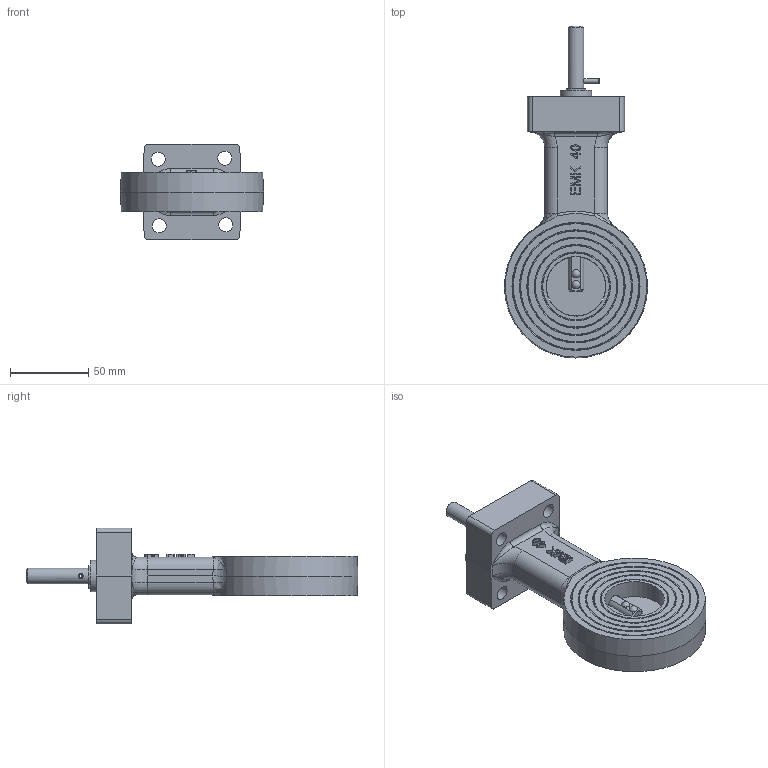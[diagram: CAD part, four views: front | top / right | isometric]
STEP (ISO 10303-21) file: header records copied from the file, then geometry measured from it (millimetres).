
FILE_DESCRIPTION((''),'2;1');
FILE_NAME('G:\CAD-Download\MRK\MRK Ro We\DN 40\MRK Ro We 15N-4.00.32.stp','2010-08-18T14:27:47',('da'),(''),'Autodesk Inventor 2008','Autodesk Inventor 2008','');
FILE_SCHEMA(('AUTOMOTIVE_DESIGN { 1 0 10303 214 1 1 1 1 }'));
Length unit declared in the file: millimetre
Products named in the file (1): Bauteil2
Bounding box: 91.28 x 211.65 x 61 mm (x, y, z)
Volume: 266724 mm3; surface area: 52174.2 mm2
Topology: 1 solids, 1 shells, 324 faces, 814 edges, 523 vertices
Faces by surface type: plane 185, bspline 69, cylinder 41, cone 21, sphere 4, torus 4
Full cylindrical faces by diameter (mm): 2 x2, 3 x2, 8 x2, 10 x2, 10.5 x1, 20 x1, 29.9 x1, 31.4 x1, 37.7 x1, 38 x1
Entity records: 11681 total; most frequent: CARTESIAN_POINT 4246, ORIENTED_EDGE 1464, DIRECTION 1325, EDGE_CURVE 732, VERTEX_POINT 500, VECTOR 451, LINE 451, AXIS2_PLACEMENT_3D 437
